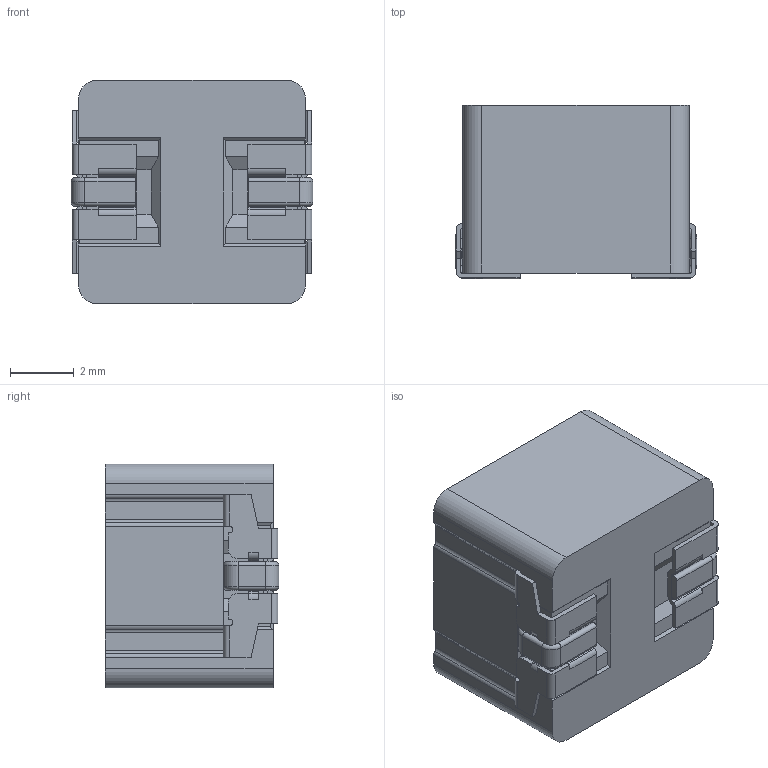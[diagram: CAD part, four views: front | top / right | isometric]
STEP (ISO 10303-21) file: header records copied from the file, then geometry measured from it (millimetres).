
FILE_DESCRIPTION (( 'STEP AP214' ), '1' );
FILE_NAME ('ETQP5M4R7TTM.STEP', '2026-06-26T00:17:26', ( '' ), ( '' ), 'SwSTEP 2.0', 'SolidWorks 2025', '' );
FILE_SCHEMA (( 'AUTOMOTIVE_DESIGN' ));
Length unit declared in the file: millimetre
Products named in the file (1): ETQP5M4R7TTM
Bounding box: 7.55 x 5.42 x 7 mm (x, y, z)
Volume: 257.9 mm3; surface area: 299.8 mm2
Topology: 1 solids, 1 shells, 263 faces, 736 edges, 460 vertices
Faces by surface type: plane 161, cylinder 92, torus 8, cone 2
Entity records: 11294 total; most frequent: ORIENTED_EDGE 1472, CARTESIAN_POINT 1460, DIRECTION 1456, EDGE_CURVE 736, VECTOR 544, LINE 544, VERTEX_POINT 460, AXIS2_PLACEMENT_3D 456
